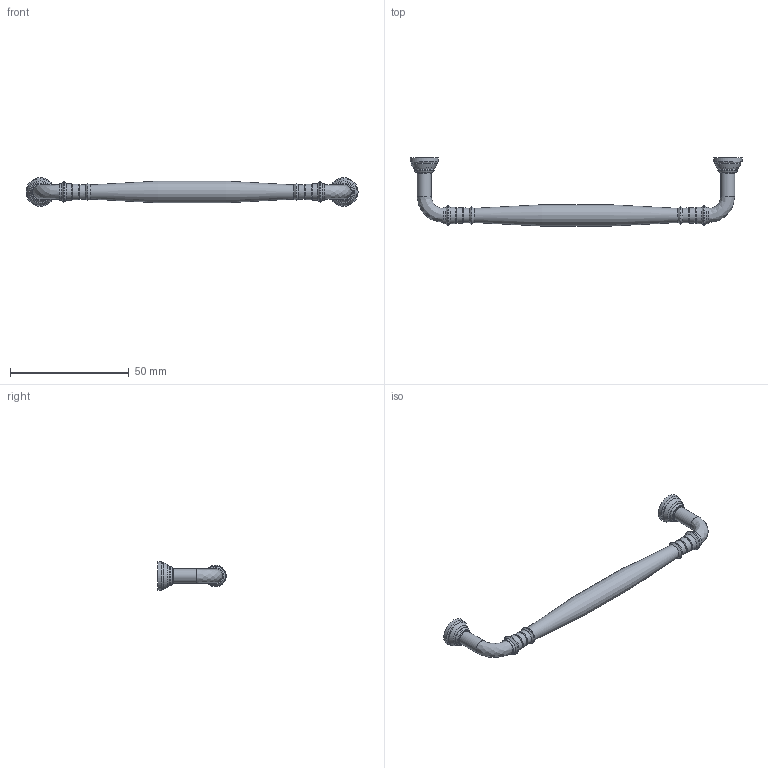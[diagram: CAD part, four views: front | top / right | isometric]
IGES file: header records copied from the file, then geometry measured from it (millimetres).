
Start section: Data from Parasolid IGES Translator 15.0.47, Copyright(c) 2006 Siemens P LM Software. All Rights Reserved.
Global section: file name: 9112651.igs; native system:  By UGS Corp.; preprocessor: XPlus GENERIC/IGES 3.0; author: Noname; organization: Noname; date: 20140122.102942; units: millimetre
Bounding box: 140 x 28.74 x 12 mm (x, y, z)
Surface area: 4652.7 mm2 (no closed solid volume)
Topology: 0 solids, 0 shells, 62 faces, 264 edges, 221 vertices
Faces by surface type: revolution 53, extrusion 9
